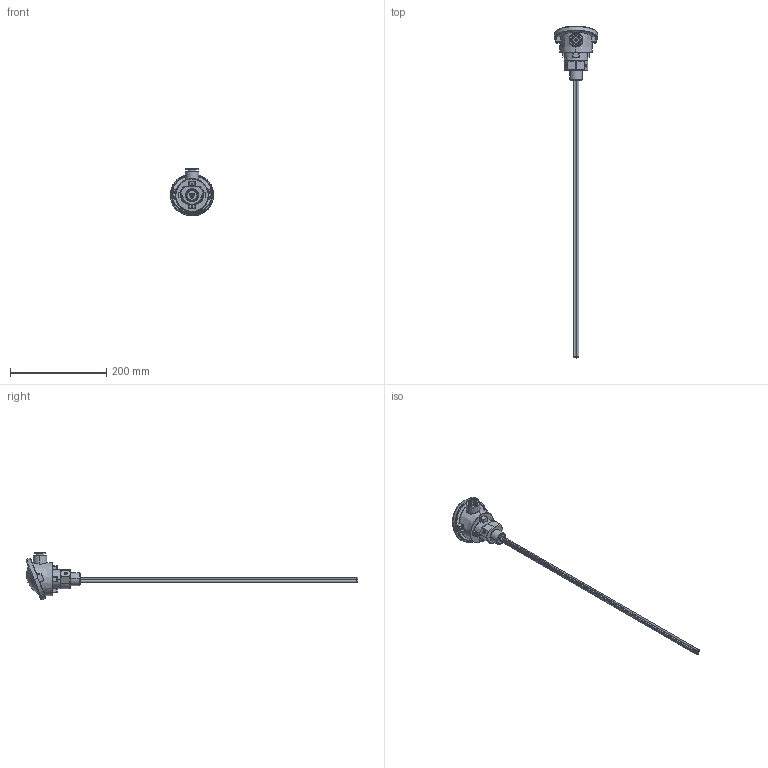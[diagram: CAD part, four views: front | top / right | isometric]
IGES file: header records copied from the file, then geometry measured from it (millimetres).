
Start section: SolidWorks IGES file using analytic representation for surfaces
Global section: file name: C:\Data\Sites\thermo-control_2017\assets\images\drw\iges\8-0103-G34.IGS; native system: SolidWorks 2016; preprocessor: SolidWorks 2016; author: koertv0d; date: 170319.215605; units: millimetre
Bounding box: 90 x 691.52 x 99.45 mm (x, y, z)
Surface area: 163692.9 mm2 (no closed solid volume)
Topology: 0 solids, 0 shells, 844 faces, 14169 edges, 14127 vertices
Faces by surface type: revolution 468, bspline 376
